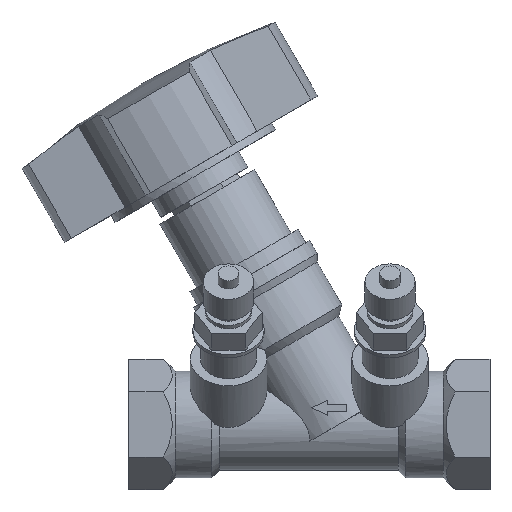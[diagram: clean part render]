
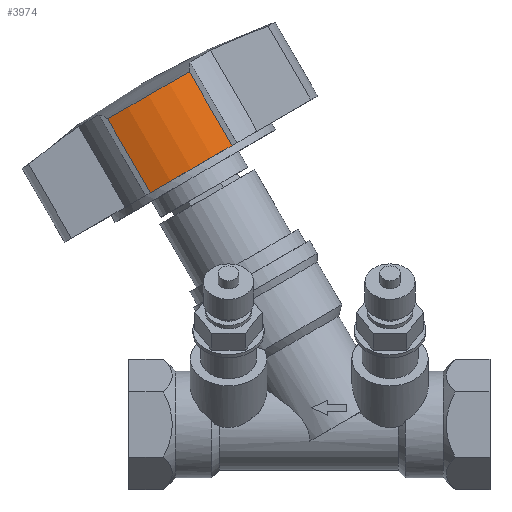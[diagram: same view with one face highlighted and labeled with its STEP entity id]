
A CAD part, front view. The second image highlights one B-rep face of the part: STEP entity #3974.
In plain terms, the highlighted cylindrical face has radius 1.37 mm (diameter 2.74 mm), a partial arc.
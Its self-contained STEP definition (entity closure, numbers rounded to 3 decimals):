
#2802 = PLANE('',#2803);
#2803 = AXIS2_PLACEMENT_3D('',#2804,#2805,#2806);
#2804 = CARTESIAN_POINT('',(0.588,0.,3.007));
#2805 = DIRECTION('',(-0.5,0.,0.866));
#2806 = DIRECTION('',(0.866,0.,0.5));
#2831 = VERTEX_POINT('',#2832);
#2832 = CARTESIAN_POINT('',(0.971,-1.297,
    3.228));
#2846 = PLANE('',#2847);
#2847 = AXIS2_PLACEMENT_3D('',#2848,#2849,#2850);
#2848 = CARTESIAN_POINT('',(1.014,-0.714,
    3.253));
#2849 = DIRECTION('',(0.863,-0.086,0.498)
  );
#2850 = DIRECTION('',(0.074,0.996,
    0.043));
#2858 = EDGE_CURVE('',#2859,#2831,#2861,.T.);
#2859 = VERTEX_POINT('',#2860);
#2860 = CARTESIAN_POINT('',(0.204,-1.297,
    2.785));
#2861 = SURFACE_CURVE('',#2862,(#2867,#2874),.PCURVE_S1.);
#2862 = CIRCLE('',#2863,1.37);
#2863 = AXIS2_PLACEMENT_3D('',#2864,#2865,#2866);
#2864 = CARTESIAN_POINT('',(0.588,0.,3.007));
#2865 = DIRECTION('',(-0.5,0.,0.866));
#2866 = DIRECTION('',(0.,-1.,0.));
#2867 = PCURVE('',#2802,#2868);
#2868 = DEFINITIONAL_REPRESENTATION('',(#2869),#2873);
#2869 = CIRCLE('',#2870,1.37);
#2870 = AXIS2_PLACEMENT_2D('',#2871,#2872);
#2871 = CARTESIAN_POINT('',(0.,0.));
#2872 = DIRECTION('',(0.,-1.));
#2873 = ( GEOMETRIC_REPRESENTATION_CONTEXT(2) 
PARAMETRIC_REPRESENTATION_CONTEXT() REPRESENTATION_CONTEXT('2D SPACE',''
  ) );
#2874 = PCURVE('',#2875,#2880);
#2875 = CYLINDRICAL_SURFACE('',#2876,1.37);
#2876 = AXIS2_PLACEMENT_3D('',#2877,#2878,#2879);
#2877 = CARTESIAN_POINT('',(0.588,0.,3.007));
#2878 = DIRECTION('',(-0.5,0.,0.866));
#2879 = DIRECTION('',(0.,-1.,0.));
#2880 = DEFINITIONAL_REPRESENTATION('',(#2881),#2885);
#2881 = LINE('',#2882,#2883);
#2882 = CARTESIAN_POINT('',(0.,0.));
#2883 = VECTOR('',#2884,1.);
#2884 = DIRECTION('',(1.,0.));
#2885 = ( GEOMETRIC_REPRESENTATION_CONTEXT(2) 
PARAMETRIC_REPRESENTATION_CONTEXT() REPRESENTATION_CONTEXT('2D SPACE',''
  ) );
#2901 = PLANE('',#2902);
#2902 = AXIS2_PLACEMENT_3D('',#2903,#2904,#2905);
#2903 = CARTESIAN_POINT('',(0.204,-1.297,
    2.785));
#2904 = DIRECTION('',(-0.863,-0.086,
    -0.498));
#2905 = DIRECTION('',(0.074,-0.996,
    0.043));
#3307 = EDGE_CURVE('',#3308,#3310,#3312,.T.);
#3308 = VERTEX_POINT('',#3309);
#3309 = CARTESIAN_POINT('',(0.571,-1.297,
    3.921));
#3310 = VERTEX_POINT('',#3311);
#3311 = CARTESIAN_POINT('',(-0.196,-1.297,
    3.478));
#3312 = SURFACE_CURVE('',#3313,(#3318,#3330),.PCURVE_S1.);
#3313 = CIRCLE('',#3314,1.37);
#3314 = AXIS2_PLACEMENT_3D('',#3315,#3316,#3317);
#3315 = CARTESIAN_POINT('',(0.187,0.,3.699));
#3316 = DIRECTION('',(0.5,0.,-0.866));
#3317 = DIRECTION('',(0.,-1.,0.));
#3318 = PCURVE('',#3319,#3324);
#3319 = SPHERICAL_SURFACE('',#3320,7.57);
#3320 = AXIS2_PLACEMENT_3D('',#3321,#3322,#3323);
#3321 = CARTESIAN_POINT('',(3.91,0.,-2.748));
#3322 = DIRECTION('',(0.5,-0.,-0.866));
#3323 = DIRECTION('',(0.866,0.,0.5));
#3324 = DEFINITIONAL_REPRESENTATION('',(#3325),#3329);
#3325 = LINE('',#3326,#3327);
#3326 = CARTESIAN_POINT('',(-10.996,-1.389));
#3327 = VECTOR('',#3328,1.);
#3328 = DIRECTION('',(1.,0.));
#3329 = ( GEOMETRIC_REPRESENTATION_CONTEXT(2) 
PARAMETRIC_REPRESENTATION_CONTEXT() REPRESENTATION_CONTEXT('2D SPACE',''
  ) );
#3330 = PCURVE('',#2875,#3331);
#3331 = DEFINITIONAL_REPRESENTATION('',(#3332),#3336);
#3332 = LINE('',#3333,#3334);
#3333 = CARTESIAN_POINT('',(12.566,0.8));
#3334 = VECTOR('',#3335,1.);
#3335 = DIRECTION('',(-1.,0.));
#3336 = ( GEOMETRIC_REPRESENTATION_CONTEXT(2) 
PARAMETRIC_REPRESENTATION_CONTEXT() REPRESENTATION_CONTEXT('2D SPACE',''
  ) );
#3974 = ADVANCED_FACE('',(#3975),#2875,.T.);
#3975 = FACE_BOUND('',#3976,.T.);
#3976 = EDGE_LOOP('',(#3977,#3978,#3999,#4000));
#3977 = ORIENTED_EDGE('',*,*,#3307,.T.);
#3978 = ORIENTED_EDGE('',*,*,#3979,.F.);
#3979 = EDGE_CURVE('',#2859,#3310,#3980,.T.);
#3980 = SURFACE_CURVE('',#3981,(#3985,#3992),.PCURVE_S1.);
#3981 = LINE('',#3982,#3983);
#3982 = CARTESIAN_POINT('',(0.204,-1.297,
    2.785));
#3983 = VECTOR('',#3984,1.);
#3984 = DIRECTION('',(-0.5,0.,0.866));
#3985 = PCURVE('',#2875,#3986);
#3986 = DEFINITIONAL_REPRESENTATION('',(#3987),#3991);
#3987 = LINE('',#3988,#3989);
#3988 = CARTESIAN_POINT('',(5.954,0.));
#3989 = VECTOR('',#3990,1.);
#3990 = DIRECTION('',(0.,1.));
#3991 = ( GEOMETRIC_REPRESENTATION_CONTEXT(2) 
PARAMETRIC_REPRESENTATION_CONTEXT() REPRESENTATION_CONTEXT('2D SPACE',''
  ) );
#3992 = PCURVE('',#2901,#3993);
#3993 = DEFINITIONAL_REPRESENTATION('',(#3994),#3998);
#3994 = LINE('',#3995,#3996);
#3995 = CARTESIAN_POINT('',(0.,0.));
#3996 = VECTOR('',#3997,1.);
#3997 = DIRECTION('',(0.,1.));
#3998 = ( GEOMETRIC_REPRESENTATION_CONTEXT(2) 
PARAMETRIC_REPRESENTATION_CONTEXT() REPRESENTATION_CONTEXT('2D SPACE',''
  ) );
#3999 = ORIENTED_EDGE('',*,*,#2858,.T.);
#4000 = ORIENTED_EDGE('',*,*,#4001,.T.);
#4001 = EDGE_CURVE('',#2831,#3308,#4002,.T.);
#4002 = SURFACE_CURVE('',#4003,(#4007,#4014),.PCURVE_S1.);
#4003 = LINE('',#4004,#4005);
#4004 = CARTESIAN_POINT('',(0.971,-1.297,
    3.228));
#4005 = VECTOR('',#4006,1.);
#4006 = DIRECTION('',(-0.5,0.,0.866));
#4007 = PCURVE('',#2875,#4008);
#4008 = DEFINITIONAL_REPRESENTATION('',(#4009),#4013);
#4009 = LINE('',#4010,#4011);
#4010 = CARTESIAN_POINT('',(6.612,0.));
#4011 = VECTOR('',#4012,1.);
#4012 = DIRECTION('',(0.,1.));
#4013 = ( GEOMETRIC_REPRESENTATION_CONTEXT(2) 
PARAMETRIC_REPRESENTATION_CONTEXT() REPRESENTATION_CONTEXT('2D SPACE',''
  ) );
#4014 = PCURVE('',#2846,#4015);
#4015 = DEFINITIONAL_REPRESENTATION('',(#4016),#4020);
#4016 = LINE('',#4017,#4018);
#4017 = CARTESIAN_POINT('',(-0.585,0.));
#4018 = VECTOR('',#4019,1.);
#4019 = DIRECTION('',(0.,1.));
#4020 = ( GEOMETRIC_REPRESENTATION_CONTEXT(2) 
PARAMETRIC_REPRESENTATION_CONTEXT() REPRESENTATION_CONTEXT('2D SPACE',''
  ) );
